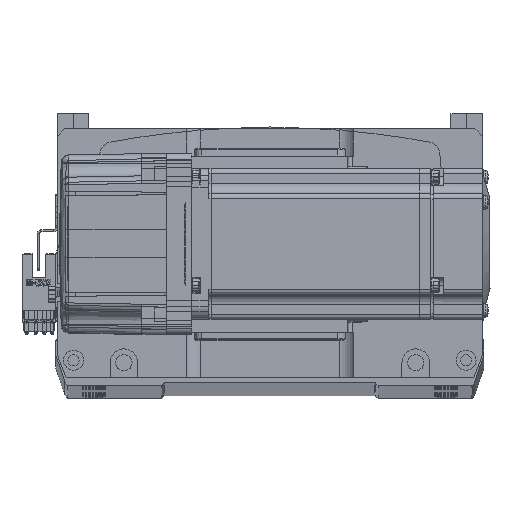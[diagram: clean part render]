
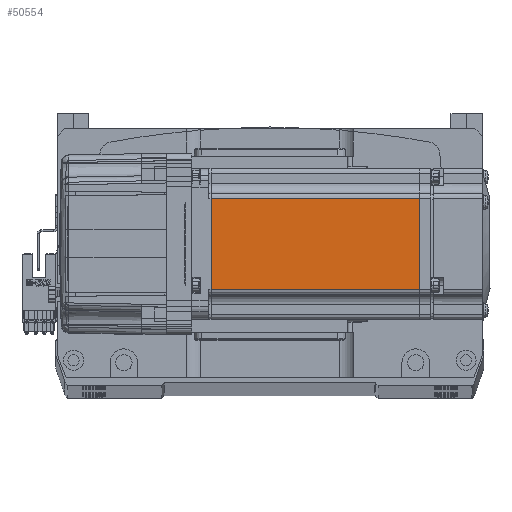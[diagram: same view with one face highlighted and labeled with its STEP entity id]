
A CAD part, top view. The second image highlights one B-rep face of the part: STEP entity #50554.
In plain terms, the highlighted planar face has unit normal (0, 0, 1) as drawn and (0, -1, 0) by its records, which use the part's own axes.
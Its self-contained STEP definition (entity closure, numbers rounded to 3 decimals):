
#63 = VECTOR ( 'NONE', #50740, 1000. ) ;
#5353 = EDGE_CURVE ( 'NONE', #19271, #42739, #29397, .T. ) ;
#6139 = ORIENTED_EDGE ( 'NONE', *, *, #54388, .T. ) ;
#7946 = VECTOR ( 'NONE', #45918, 1000. ) ;
#9897 = LINE ( 'NONE', #59620, #13391 ) ;
#13391 = VECTOR ( 'NONE', #21762, 1000. ) ;
#15947 = VERTEX_POINT ( 'NONE', #25743 ) ;
#17570 = DIRECTION ( 'NONE',  ( 0., 0., -1. ) ) ;
#19271 = VERTEX_POINT ( 'NONE', #49753 ) ;
#20580 = ORIENTED_EDGE ( 'NONE', *, *, #5353, .T. ) ;
#21762 = DIRECTION ( 'NONE',  ( 0., 0., 1. ) ) ;
#23784 = EDGE_LOOP ( 'NONE', ( #45267, #6139, #37161, #20580 ) ) ;
#25743 = CARTESIAN_POINT ( 'NONE',  ( -90.45, -30., 18. ) ) ;
#26608 = LINE ( 'NONE', #40926, #63 ) ;
#29397 = LINE ( 'NONE', #39916, #7946 ) ;
#29854 = PLANE ( 'NONE',  #35356 ) ;
#30316 = CARTESIAN_POINT ( 'NONE',  ( -7.75, -30., -18. ) ) ;
#35356 = AXIS2_PLACEMENT_3D ( 'NONE', #62846, #57351, #46142 ) ;
#37161 = ORIENTED_EDGE ( 'NONE', *, *, #52643, .T. ) ;
#38872 = CARTESIAN_POINT ( 'NONE',  ( -90.45, -30., -25. ) ) ;
#39916 = CARTESIAN_POINT ( 'NONE',  ( -6.5, -30., -18. ) ) ;
#40587 = LINE ( 'NONE', #38872, #51720 ) ;
#40877 = FACE_OUTER_BOUND ( 'NONE', #23784, .T. ) ;
#40926 = CARTESIAN_POINT ( 'NONE',  ( -6.5, -30., 18. ) ) ;
#42739 = VERTEX_POINT ( 'NONE', #30316 ) ;
#45267 = ORIENTED_EDGE ( 'NONE', *, *, #59355, .T. ) ;
#45918 = DIRECTION ( 'NONE',  ( 1., 0., 0. ) ) ;
#46142 = DIRECTION ( 'NONE',  ( 0., 0., -1. ) ) ;
#49753 = CARTESIAN_POINT ( 'NONE',  ( -90.45, -30., -18. ) ) ;
#50554 = ADVANCED_FACE ( 'NONE', ( #40877 ), #29854, .T. ) ;
#50740 = DIRECTION ( 'NONE',  ( -1., 0., 0. ) ) ;
#51720 = VECTOR ( 'NONE', #17570, 1000. ) ;
#52643 = EDGE_CURVE ( 'NONE', #15947, #19271, #40587, .T. ) ;
#52753 = VERTEX_POINT ( 'NONE', #68238 ) ;
#54388 = EDGE_CURVE ( 'NONE', #52753, #15947, #26608, .T. ) ;
#57351 = DIRECTION ( 'NONE',  ( 0., -1., 0. ) ) ;
#59355 = EDGE_CURVE ( 'NONE', #42739, #52753, #9897, .T. ) ;
#59620 = CARTESIAN_POINT ( 'NONE',  ( -7.75, -30., -25. ) ) ;
#62846 = CARTESIAN_POINT ( 'NONE',  ( -6.5, -30., -25. ) ) ;
#68238 = CARTESIAN_POINT ( 'NONE',  ( -7.75, -30., 18. ) ) ;
